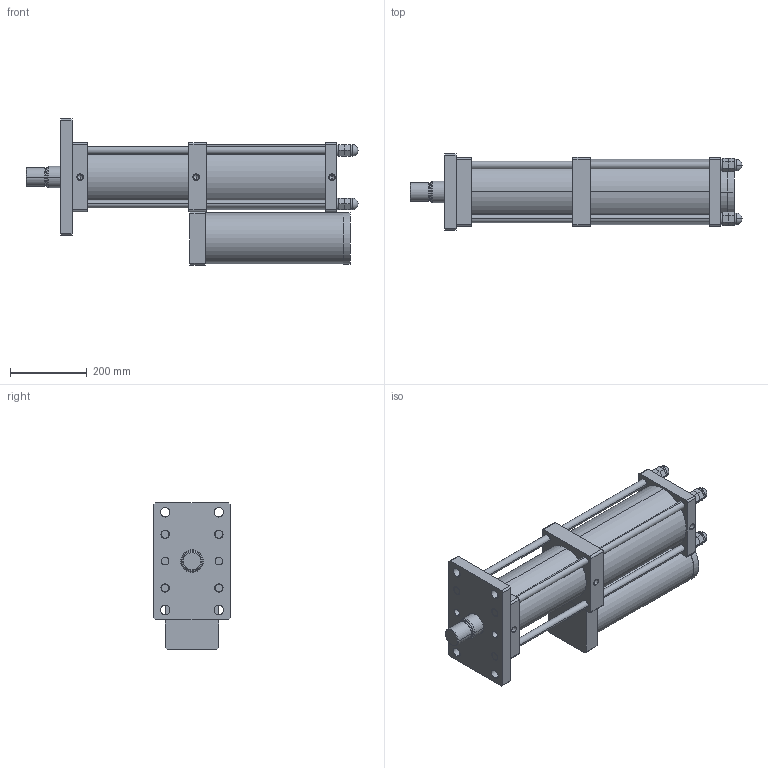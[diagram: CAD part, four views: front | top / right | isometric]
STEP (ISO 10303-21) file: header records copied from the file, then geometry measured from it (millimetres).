
FILE_DESCRIPTION (( 'STEP AP203' ), '1' );
FILE_NAME ('MPT-125-200-20-15T.STEP', '2016-03-12T01:30:24', ( 'WIN' ), ( '' ), 'SwSTEP 2.0', 'SolidWorks 2014', '' );
FILE_SCHEMA (( 'CONFIG_CONTROL_DESIGN' ));
Length unit declared in the file: millimetre
Products named in the file (1): MPT-125-200-20-15T
Bounding box: 866 x 200 x 382.5 mm (x, y, z)
Volume: 19472059.9 mm3; surface area: 1375822.4 mm2
Topology: 17 solids, 17 shells, 318 faces, 726 edges, 454 vertices
Faces by surface type: plane 154, cylinder 122, cone 30, sphere 8, torus 4
Entity records: 8889 total; most frequent: DIRECTION 1638, CARTESIAN_POINT 1467, ORIENTED_EDGE 1404, EDGE_CURVE 702, AXIS2_PLACEMENT_3D 617, VERTEX_POINT 446, VECTOR 404, LINE 404
